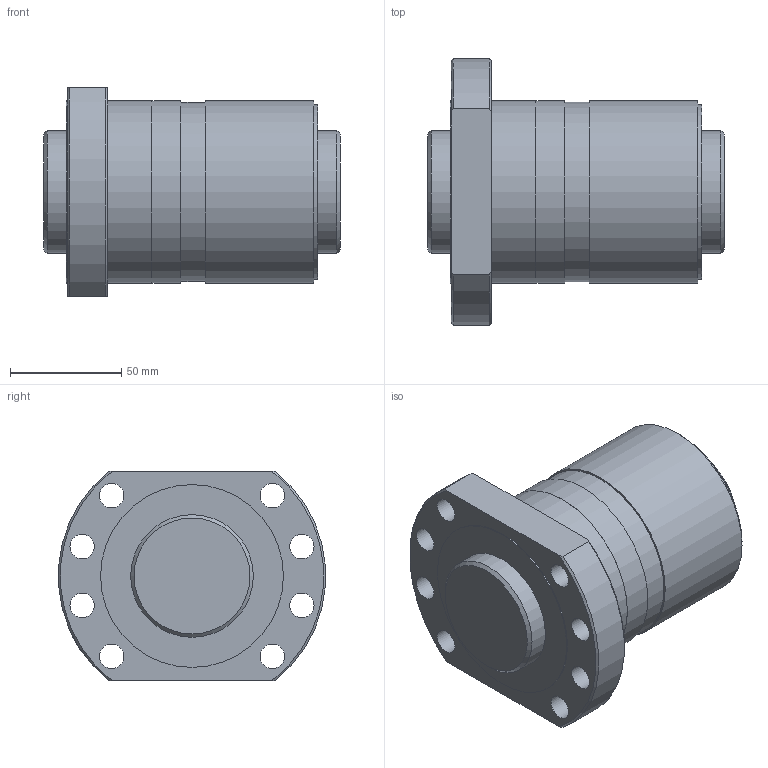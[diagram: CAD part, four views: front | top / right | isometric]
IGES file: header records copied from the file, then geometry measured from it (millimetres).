
Start section: Data from Parasolid IGES Translator 26.0.171, Copyright(c) 2006 Siemens PLM Software. All Rights Reserved.
Global section: file name: SDAN5510VAX-4G0+133LC0(0G000).igs; native system: By Siemens PLM Incorporated; preprocessor: XPlus GENERIC/IGES 26.0.171; author: Noname; organization: Noname; date: 20240704.102120; units: millimetre
Bounding box: 133 x 119.6 x 94 mm (x, y, z)
Surface area: 97918.8 mm2 (no closed solid volume)
Topology: 0 solids, 0 shells, 41 faces, 178 edges, 150 vertices
Faces by surface type: revolution 28, extrusion 13
